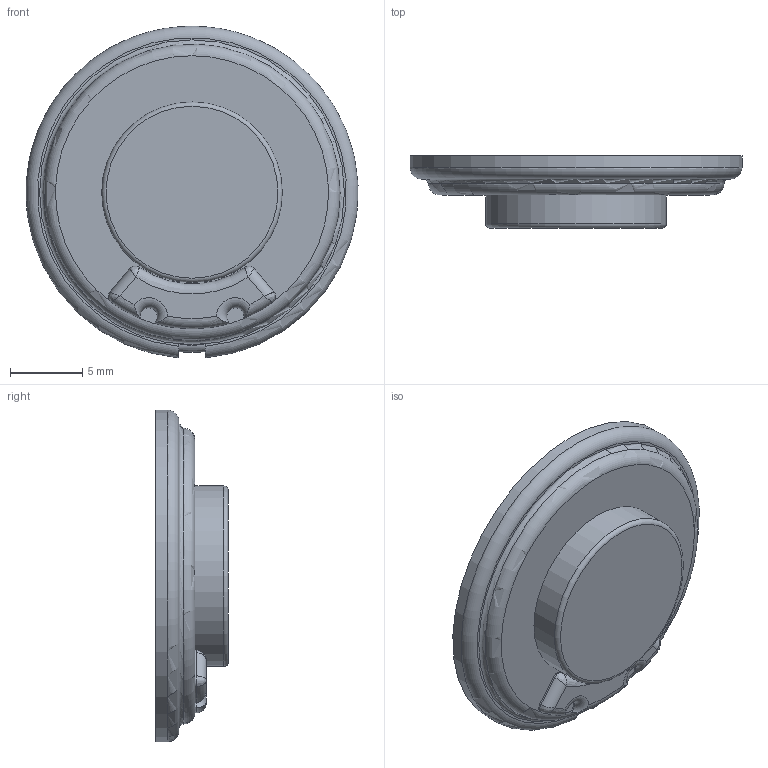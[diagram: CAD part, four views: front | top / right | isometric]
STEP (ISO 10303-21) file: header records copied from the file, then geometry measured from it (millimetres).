
FILE_DESCRIPTION((''),'2;1');
FILE_NAME('C:\Users\CAD\Documents\Zeichnungen\Chassis\K 23\k23_121010.stp','2015-04-22T14:02:11',('CAD'),(''),'Autodesk Inventor 2011','Autodesk Inventor 2011','');
FILE_SCHEMA(('CONFIG_CONTROL_DESIGN'));
Length unit declared in the file: millimetre
Products named in the file (1): k23_121010
Bounding box: 22.98 x 5 x 22.96 mm (x, y, z)
Volume: 1042.5 mm3; surface area: 1204.4 mm2
Topology: 1 solids, 1 shells, 165 faces, 386 edges, 240 vertices
Faces by surface type: cylinder 76, plane 72, torus 12, bspline 4, sphere 1
Full cylindrical faces by diameter (mm): 12.5 x1
Entity records: 5318 total; most frequent: CARTESIAN_POINT 1743, ORIENTED_EDGE 740, DIRECTION 700, EDGE_CURVE 370, AXIS2_PLACEMENT_3D 286, VERTEX_POINT 235, EDGE_LOOP 193, FACE_OUTER_BOUND 165
